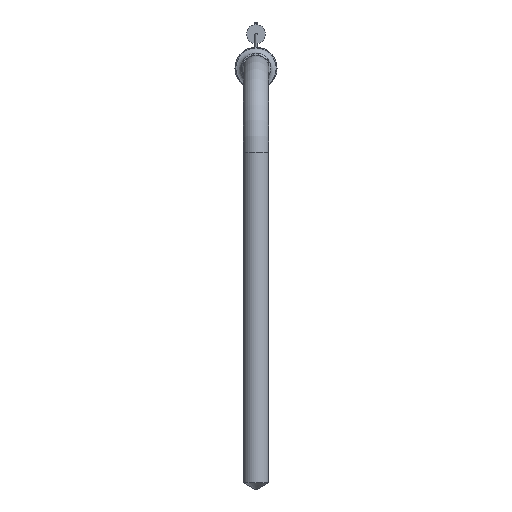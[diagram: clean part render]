
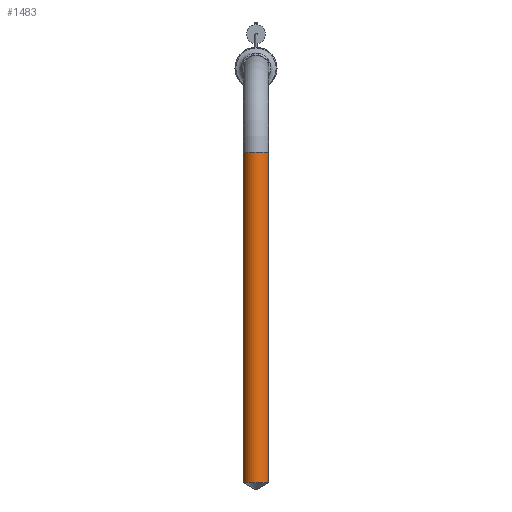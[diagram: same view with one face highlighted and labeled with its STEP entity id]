
A CAD part, top view. The second image highlights one B-rep face of the part: STEP entity #1483.
In plain terms, the highlighted cylindrical face has radius 3 mm (diameter 6 mm), a full revolution.
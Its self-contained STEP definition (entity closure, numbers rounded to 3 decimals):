
#14 = DIRECTION ( 'NONE',  ( 0., 1., 0. ) ) ;
#247 = CARTESIAN_POINT ( 'NONE',  ( -3., -20., 30. ) ) ;
#557 = CIRCLE ( 'NONE', #2511, 3. ) ;
#595 = DIRECTION ( 'NONE',  ( 0., 0., 1. ) ) ;
#633 = AXIS2_PLACEMENT_3D ( 'NONE', #1707, #2595, #595 ) ;
#866 = FACE_OUTER_BOUND ( 'NONE', #1945, .T. ) ;
#1085 = CIRCLE ( 'NONE', #1226, 3. ) ;
#1153 = ORIENTED_EDGE ( 'NONE', *, *, #1486, .T. ) ;
#1226 = AXIS2_PLACEMENT_3D ( 'NONE', #2582, #1464, #2558 ) ;
#1331 = EDGE_LOOP ( 'NONE', ( #1153 ) ) ;
#1455 = DIRECTION ( 'NONE',  ( 0., 0., 1. ) ) ;
#1464 = DIRECTION ( 'NONE',  ( 0., -1., 0. ) ) ;
#1483 = ADVANCED_FACE ( 'NONE', ( #866, #1502 ), #2774, .T. ) ;
#1486 = EDGE_CURVE ( 'NONE', #2190, #2190, #1085, .T. ) ;
#1502 = FACE_OUTER_BOUND ( 'NONE', #1331, .T. ) ;
#1707 = CARTESIAN_POINT ( 'NONE',  ( 0., -20., 30. ) ) ;
#1945 = EDGE_LOOP ( 'NONE', ( #1950 ) ) ;
#1950 = ORIENTED_EDGE ( 'NONE', *, *, #2232, .T. ) ;
#2190 = VERTEX_POINT ( 'NONE', #247 ) ;
#2232 = EDGE_CURVE ( 'NONE', #2500, #2500, #557, .T. ) ;
#2314 = CARTESIAN_POINT ( 'NONE',  ( 0., -98.268, 30. ) ) ;
#2500 = VERTEX_POINT ( 'NONE', #2513 ) ;
#2511 = AXIS2_PLACEMENT_3D ( 'NONE', #2314, #14, #1455 ) ;
#2513 = CARTESIAN_POINT ( 'NONE',  ( 0., -98.268, 33. ) ) ;
#2558 = DIRECTION ( 'NONE',  ( -1., 0., 0. ) ) ;
#2582 = CARTESIAN_POINT ( 'NONE',  ( 0., -20., 30. ) ) ;
#2595 = DIRECTION ( 'NONE',  ( 0., -1., 0. ) ) ;
#2774 = CYLINDRICAL_SURFACE ( 'NONE', #633, 3. ) ;
